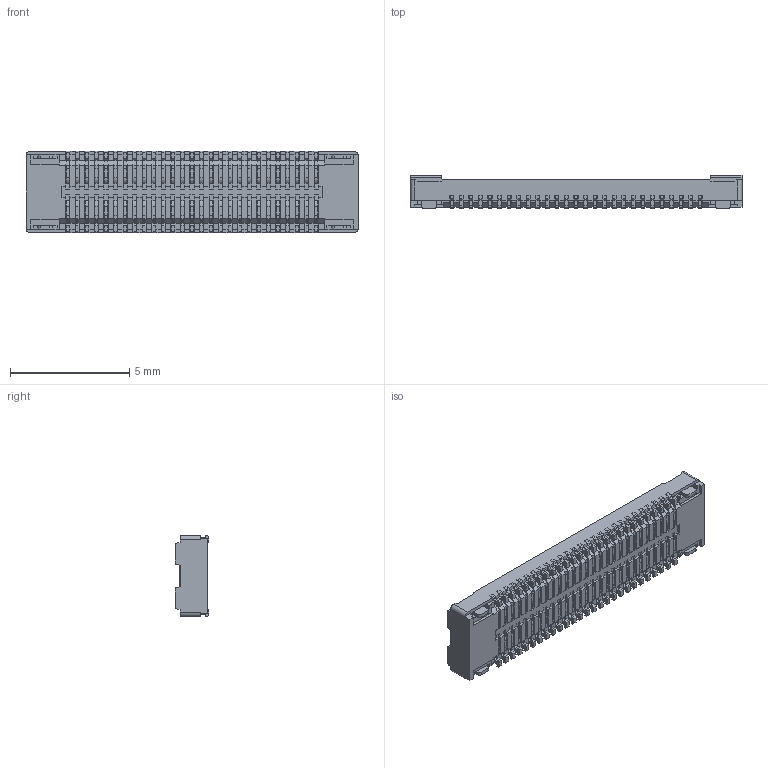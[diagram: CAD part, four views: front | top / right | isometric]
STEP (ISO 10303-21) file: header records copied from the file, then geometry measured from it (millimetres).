
FILE_DESCRIPTION((''),'2;1');
FILE_NAME('513385473','2014-01-29T',('me'),(''),'PRO/ENGINEER BY PARAMETRIC TECHNOLOGY CORPORATION, 2011490','PRO/ENGINEER BY PARAMETRIC TECHNOLOGY CORPORATION, 2011490','');
FILE_SCHEMA(('CONFIG_CONTROL_DESIGN'));
Products named in the file (1): 513385473
Bounding box: 13.9 x 1.4 x 3.41 mm (x, y, z)
Volume: 34.4 mm3; surface area: 321.9 mm2
Topology: 1 solids, 1 shells, 3311 faces, 10066 edges, 6696 vertices
Faces by surface type: plane 3167, cylinder 136, cone 8
Entity records: 110379 total; most frequent: CARTESIAN_POINT 19872, ORIENTED_EDGE 19668, DIRECTION 16962, EDGE_CURVE 9834, VECTOR 9778, LINE 9778, VERTEX_POINT 6464, AXIS2_PLACEMENT_3D 3592
